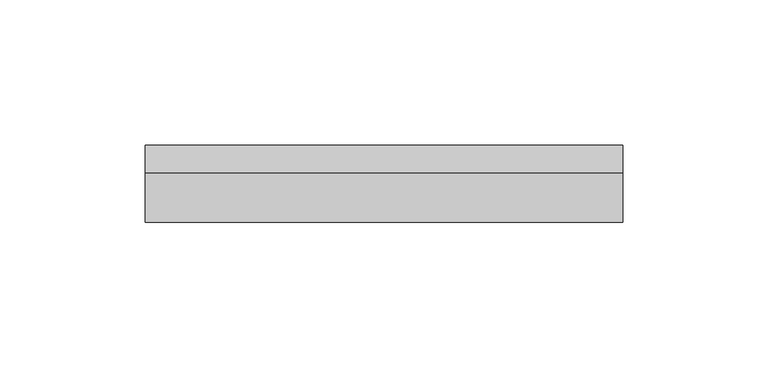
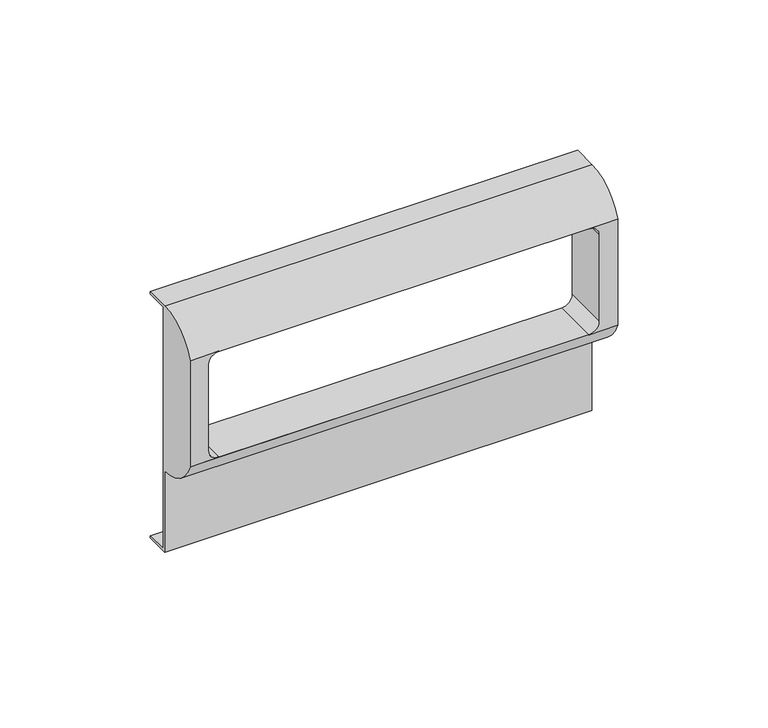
"""IFC4 building model written with IfcOpenShell, lengths in millimetres: proxy geometry."""

from ifc_helpers import new_model, si_unit, frame, origin, place, context, project, spatial, polyline, circle_curve, source, transform, mapped, element, save
from ifc_brep_helpers import plane_surface, cylinder_surface, revolved_surface, advanced_brep


def electrical_fixtures_4fcbd48c(model_context):
    return source(origin(), model_context, "Body", "AdvancedBrep", [
        advanced_brep(
        [(82.0, 8.4, 49.0), (82.0, 8.4, 50.0), (82.0, -1.0, 50.0), (82.0, -18.0, 38.0), (82.0, -18.0, -5.0), (82.0, -1.0, -17.0), (82.0, -1.0, -50.0), (82.0, 8.4, -50.0), (82.0, 8.4, -49.0), (82.0, 0.0, -49.0), (82.0, 0.0, 49.0), (-82.0, 8.4, 49.0), (-82.0, 0.0, 49.0), (-82.0, 0.0, -49.0), (-82.0, 8.4, -49.0), (-82.0, 8.4, -50.0), (-82.0, -1.0, -50.0), (-82.0, -1.0, -17.0), (-82.0, -18.0, -5.0), (-82.0, -18.0, 38.0), (-82.0, -1.0, 50.0), (-82.0, 8.4, 50.0), (70.9686648, -18.0, 38.0), (75.0, -18.0, 33.9686648), (75.0, -18.0, -0.9686648), (70.9686648, -18.0, -5.0), (-70.9686648, -18.0, -5.0), (-75.0, -18.0, -0.9686648), (-75.0, -18.0, 33.9686648), (-70.9686648, -18.0, 38.0), (70.9686648, 0.0, 38.0), (-70.9686648, 0.0, 38.0), (-75.0, 0.0, 33.9686648), (-75.0, 0.0, -0.9686648), (-70.9686648, 0.0, -5.0), (70.9686648, 0.0, -5.0), (75.0, 0.0, -0.9686648), (75.0, 0.0, 33.9686648)],
        [
            (0, 1),
            (1, 2),
            (2, 3, circle_curve(frame((82.0, -1.0, 31.9583333), z_axis=(1.0, 0.0, 0.0), x_axis=(0.0, 1.0, 0.0)), 18.0416667)),
            (3, 4),
            (4, 5, circle_curve(frame((82.0, -1.0, 1.0416667), z_axis=(1.0, 0.0, 0.0), x_axis=(0.0, 1.0, 0.0)), 18.0416667)),
            (5, 6),
            (6, 7),
            (7, 8),
            (8, 9),
            (9, 10),
            (10, 0),
            (11, 12),
            (12, 13),
            (13, 14),
            (14, 15),
            (15, 16),
            (16, 17),
            (17, 18, circle_curve(frame((-82.0, -1.0, 1.0416667), z_axis=(-1.0, 0.0, 0.0), x_axis=(0.0, 1.0, 0.0)), 18.0416667)),
            (18, 19),
            (19, 20, circle_curve(frame((-82.0, -1.0, 31.9583333), z_axis=(-1.0, 0.0, 0.0), x_axis=(0.0, 1.0, 0.0)), 18.0416667)),
            (20, 21),
            (21, 11),
            (0, 11),
            (21, 1),
            (20, 2),
            (3, 22),
            (22, 23, circle_curve(frame((70.9686648, -18.0, 33.9686648), z_axis=(0.0, 1.0, 0.0), x_axis=(1.0, 0.0, 0.0)), 4.0313352)),
            (23, 24),
            (24, 25, circle_curve(frame((70.9686648, -18.0, -0.9686648), z_axis=(0.0, 1.0, 0.0), x_axis=(1.0, 0.0, 0.0)), 4.0313352)),
            (25, 4),
            (18, 26),
            (26, 27, circle_curve(frame((-70.9686648, -18.0, -0.9686648), z_axis=(0.0, 1.0, 0.0), x_axis=(1.0, 0.0, 0.0)), 4.0313352)),
            (27, 28),
            (28, 29, circle_curve(frame((-70.9686648, -18.0, 33.9686648), z_axis=(0.0, 1.0, 0.0), x_axis=(1.0, 0.0, 0.0)), 4.0313352)),
            (29, 19),
            (5, 17),
            (16, 6),
            (15, 7),
            (14, 8),
            (13, 9),
            (12, 10),
            (30, 31),
            (31, 32, circle_curve(frame((-70.9686648, 0.0, 33.9686648), z_axis=(0.0, -1.0, 0.0), x_axis=(1.0, 0.0, 0.0)), 4.0313352)),
            (32, 33),
            (33, 34, circle_curve(frame((-70.9686648, 0.0, -0.9686648), z_axis=(0.0, -1.0, 0.0), x_axis=(1.0, 0.0, 0.0)), 4.0313352)),
            (34, 35),
            (35, 36, circle_curve(frame((70.9686648, 0.0, -0.9686648), z_axis=(0.0, -1.0, 0.0), x_axis=(1.0, 0.0, 0.0)), 4.0313352)),
            (36, 37),
            (37, 30, circle_curve(frame((70.9686648, 0.0, 33.9686648), z_axis=(0.0, -1.0, 0.0), x_axis=(1.0, 0.0, 0.0)), 4.0313352)),
            (29, 22),
            (25, 26),
            (29, 31),
            (30, 22),
            (28, 32),
            (27, 33),
            (26, 34),
            (25, 35),
            (24, 36),
            (23, 37),
        ],
        [
            plane_surface(frame((82.0, 8.4, 50.0), z_axis=(1.0, 0.0, 0.0), x_axis=(0.0, 0.0, 1.0))),
            plane_surface(frame((-82.0, 8.4, 50.0), z_axis=(-1.0, 0.0, 0.0), x_axis=(0.0, 0.0, -1.0))),
            plane_surface(frame((82.0, 8.4, 49.0), z_axis=(0.0, 1.0, 0.0), x_axis=(-1.0, 0.0, 0.0))),
            plane_surface(frame((82.0, 8.4, 50.0), z_axis=(0.0, 0.0, 1.0), x_axis=(-1.0, 0.0, 0.0))),
            plane_surface(frame((82.0, -18.0, 38.0), z_axis=(0.0, -1.0, 0.0), x_axis=(-1.0, 0.0, 0.0))),
            plane_surface(frame((82.0, -1.0, -17.0), z_axis=(0.0, -1.0, 0.0), x_axis=(-1.0, 0.0, 0.0))),
            plane_surface(frame((82.0, -1.0, -50.0), z_axis=(0.0, 0.0, -1.0), x_axis=(-1.0, 0.0, 0.0))),
            plane_surface(frame((82.0, 8.4, -50.0), z_axis=(0.0, 1.0, 0.0), x_axis=(-1.0, 0.0, 0.0))),
            plane_surface(frame((82.0, 8.4, -49.0), z_axis=(0.0, 0.0, 1.0), x_axis=(-1.0, 0.0, 0.0))),
            plane_surface(frame((82.0, 0.0, -49.0), z_axis=(0.0, 1.0, 0.0), x_axis=(-1.0, 0.0, 0.0))),
            plane_surface(frame((82.0, 0.0, 49.0), z_axis=(0.0, 0.0, -1.0), x_axis=(-1.0, 0.0, 0.0))),
            cylinder_surface(frame((-82.0, -1.0, 31.9583333), z_axis=(1.0, 0.0, 0.0), x_axis=(0.0, 1.0, 0.0)), 18.0416667),
            cylinder_surface(frame((-82.0, -1.0, 1.0416667), z_axis=(1.0, 0.0, 0.0), x_axis=(0.0, 1.0, 0.0)), 18.0416667),
            plane_surface(frame((70.9686648, -18.0, 38.0), z_axis=(0.0, 0.0, -1.0), x_axis=(0.0, 1.0, 0.0))),
            revolved_surface(polyline([(-66.9373296, -18.0, 33.9686648), (-66.9373296, 0.0, 33.9686648)]), (-70.9686648, 0.0, 33.9686648), (0.0, -1.0, 0.0)),
            plane_surface(frame((-75.0, -18.0, 33.9686648), z_axis=(1.0, 0.0, 0.0), x_axis=(0.0, 1.0, 0.0))),
            revolved_surface(polyline([(-66.9373296, -18.0, -0.9686648), (-66.9373296, 0.0, -0.9686648)]), (-70.9686648, 0.0, -0.9686648), (0.0, -1.0, 0.0)),
            plane_surface(frame((-70.9686648, -18.0, -5.0), z_axis=(0.0, 0.0, 1.0), x_axis=(0.0, 1.0, 0.0))),
            revolved_surface(polyline([(75.0, -18.0, -0.9686648), (75.0, 0.0, -0.9686648)]), (70.9686648, 0.0, -0.9686648), (0.0, -1.0, 0.0)),
            plane_surface(frame((75.0, -18.0, -0.9686648), z_axis=(-1.0, 0.0, 0.0), x_axis=(0.0, 1.0, 0.0))),
            revolved_surface(polyline([(75.0, -18.0, 33.9686648), (75.0, 0.0, 33.9686648)]), (70.9686648, 0.0, 33.9686648), (0.0, -1.0, 0.0)),
        ],
        [
            (0, [[1, 2, 3, 4, 5, 6, 7, 8, 9, 10, 11]]),
            (1, [[12, 13, 14, 15, 16, 17, 18, 19, 20, 21, 22]]),
            (2, [[-1, 23, -22, 24]]),
            (3, [[-2, -24, -21, 25]]),
            (4, [[-4, 26, 27, 28, 29, 30]]),
            (4, [[-19, 31, 32, 33, 34, 35]]),
            (5, [[-6, 36, -17, 37]]),
            (6, [[-7, -37, -16, 38]]),
            (7, [[-8, -38, -15, 39]]),
            (8, [[-9, -39, -14, 40]]),
            (9, [[-10, -40, -13, 41], [42, 43, 44, 45, 46, 47, 48, 49]]),
            (10, [[-11, -41, -12, -23]]),
            (11, [[-3, -25, -20, -35, 50, -26]]),
            (12, [[-5, -30, 51, -31, -18, -36]]),
            (13, [[52, -42, 53, -50]]),
            (14, [[-52, -34, 54, -43]]),
            (15, [[-54, -33, 55, -44]]),
            (16, [[-55, -32, 56, -45]]),
            (17, [[-56, -51, 57, -46]]),
            (18, [[-57, -29, 58, -47]]),
            (19, [[-58, -28, 59, -48]]),
            (20, [[-53, -49, -59, -27]]),
        ],
    ),
    ])


if __name__ == "__main__":
    model = new_model("IFC4")
    model_context = context("Model", 3, world=origin())
    ifc_project = project(units=[si_unit("LENGTHUNIT", "METRE", prefix="MILLI")], contexts=[model_context])
    site = spatial("IfcSite", under=ifc_project)
    building = spatial("IfcBuilding", under=site)
    placement = place(None, origin())
    electrical_fixtures_shape = electrical_fixtures_4fcbd48c(model_context)
    element("IfcBuildingElementProxy", 1, Name="КНС_РамкаСуппорт_ILC_DKC : Серия \"Brava\"", ObjectType="КНС_РамкаСуппорт_ILC_DKC : Серия \"Brava\"", at=placement, inside=building, context=model_context, shape_type="MappedRepresentation", body=[
        mapped(electrical_fixtures_shape, transform((0.0, 0.0, 0.0), x_axis=(1.0, 0.0, 0.0), y_axis=(0.0, 1.0, 0.0), z_axis=(0.0, 0.0, 1.0))),
    ])
    save(model, "model.ifc")
